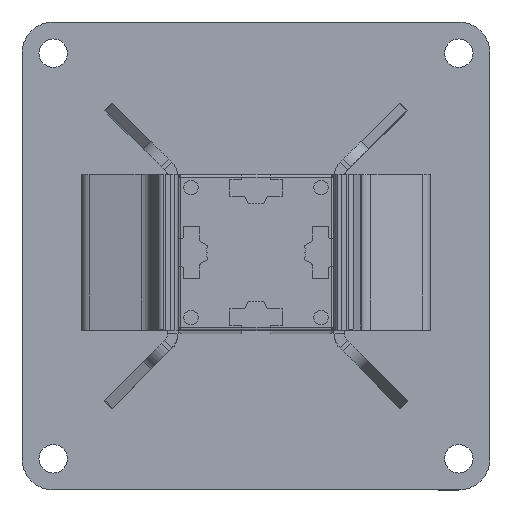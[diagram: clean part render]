
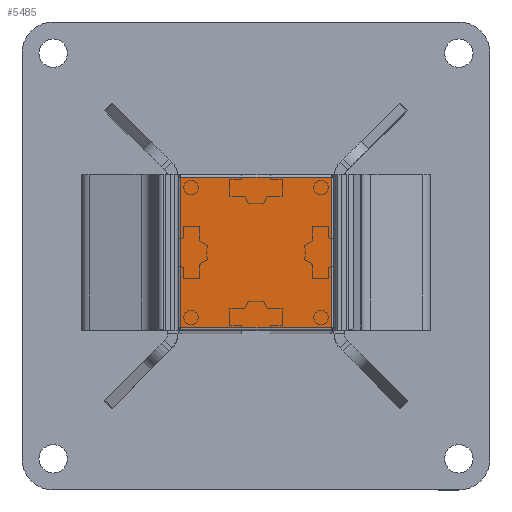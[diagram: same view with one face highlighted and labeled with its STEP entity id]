
A CAD part, top view. The second image highlights one B-rep face of the part: STEP entity #5485.
In plain terms, the highlighted planar face has unit normal (0, 0, 1) as drawn and (0, 0, -1) by its records, which use the part's own axes.
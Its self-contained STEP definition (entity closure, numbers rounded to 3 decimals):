
#761=FACE_OUTER_BOUND('',#1078,.T.);
#1078=EDGE_LOOP('',(#4923,#4924,#4925,#4926));
#1618=LINE('',#9281,#2159);
#1620=LINE('',#9289,#2161);
#1622=LINE('',#9297,#2163);
#1624=LINE('',#9306,#2165);
#2159=VECTOR('',#7641,10.);
#2161=VECTOR('',#7649,10.);
#2163=VECTOR('',#7657,10.);
#2165=VECTOR('',#7669,10.);
#2657=VERTEX_POINT('',#9278);
#2658=VERTEX_POINT('',#9280);
#2661=VERTEX_POINT('',#9288);
#2664=VERTEX_POINT('',#9296);
#3405=EDGE_CURVE('',#2657,#2658,#1618,.T.);
#3409=EDGE_CURVE('',#2658,#2661,#1620,.T.);
#3413=EDGE_CURVE('',#2661,#2664,#1622,.T.);
#3418=EDGE_CURVE('',#2664,#2657,#1624,.T.);
#4923=ORIENTED_EDGE('',*,*,#3405,.F.);
#4924=ORIENTED_EDGE('',*,*,#3418,.F.);
#4925=ORIENTED_EDGE('',*,*,#3413,.F.);
#4926=ORIENTED_EDGE('',*,*,#3409,.F.);
#5211=PLANE('',#6163);
#5485=ADVANCED_FACE('',(#761),#5211,.F.);
#6163=AXIS2_PLACEMENT_3D('',#9334,#7704,#7705);
#7641=DIRECTION('',(0.,-1.,0.));
#7649=DIRECTION('',(1.,0.,0.));
#7657=DIRECTION('',(0.,1.,0.));
#7669=DIRECTION('',(-1.,0.,0.));
#7704=DIRECTION('center_axis',(0.,0.,1.));
#7705=DIRECTION('ref_axis',(1.,0.,0.));
#9278=CARTESIAN_POINT('',(-46.008,10.993,0.));
#9280=CARTESIAN_POINT('',(-46.008,-47.007,0.));
#9281=CARTESIAN_POINT('',(-46.008,-32.507,0.));
#9288=CARTESIAN_POINT('',(11.992,-47.007,0.));
#9289=CARTESIAN_POINT('',(-2.508,-47.007,0.));
#9296=CARTESIAN_POINT('',(11.992,10.993,0.));
#9297=CARTESIAN_POINT('',(11.992,-3.507,0.));
#9306=CARTESIAN_POINT('',(-31.508,10.993,0.));
#9334=CARTESIAN_POINT('Origin',(-17.008,-18.007,0.));
